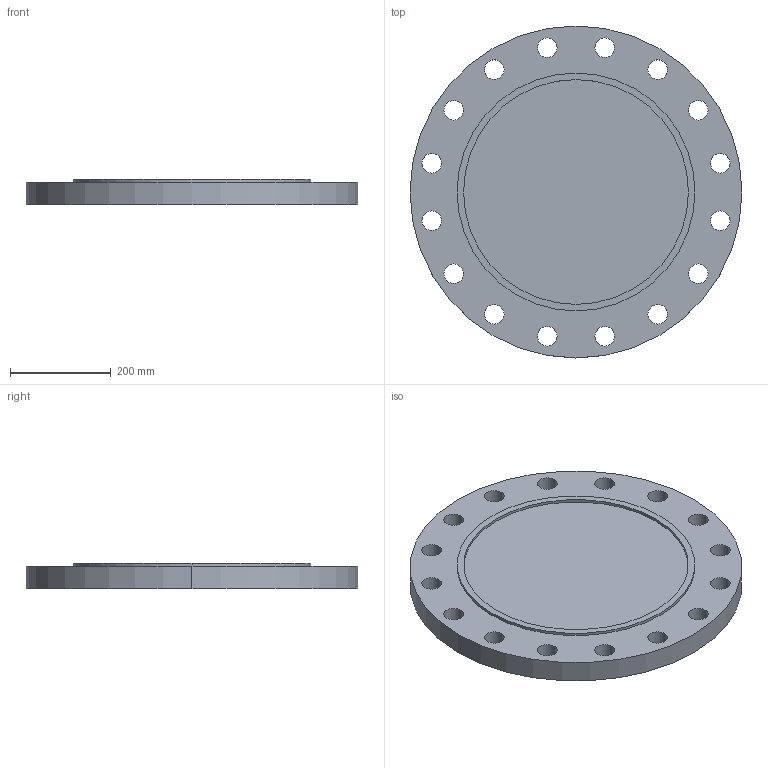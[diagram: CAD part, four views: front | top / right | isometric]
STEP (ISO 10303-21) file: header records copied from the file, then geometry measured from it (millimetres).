
FILE_DESCRIPTION (( 'STEP AP214' ), '1' );
FILE_NAME ('PN40 DN400 Type 05 - Type C Face.STEP', '2019-01-05T23:21:37', ( '' ), ( '' ), 'SwSTEP 2.0', 'SolidWorks 2019', '' );
FILE_SCHEMA (( 'AUTOMOTIVE_DESIGN' ));
Length unit declared in the file: millimetre
Products named in the file (1): PN40 DN400 Type 05 - Type C Face
Bounding box: 660 x 660 x 50 mm (x, y, z)
Volume: 14477093.5 mm3; surface area: 841412.8 mm2
Topology: 1 solids, 1 shells, 42 faces, 114 edges, 76 vertices
Faces by surface type: cylinder 38, plane 4
Entity records: 1472 total; most frequent: DIRECTION 276, CARTESIAN_POINT 233, ORIENTED_EDGE 228, AXIS2_PLACEMENT_3D 119, EDGE_CURVE 114, CIRCLE 76, VERTEX_POINT 76, EDGE_LOOP 76
